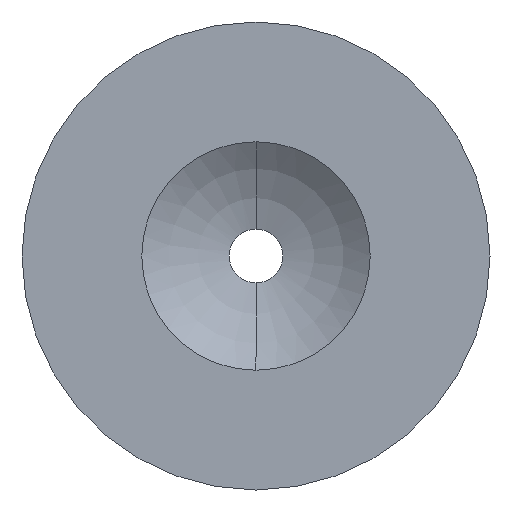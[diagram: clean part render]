
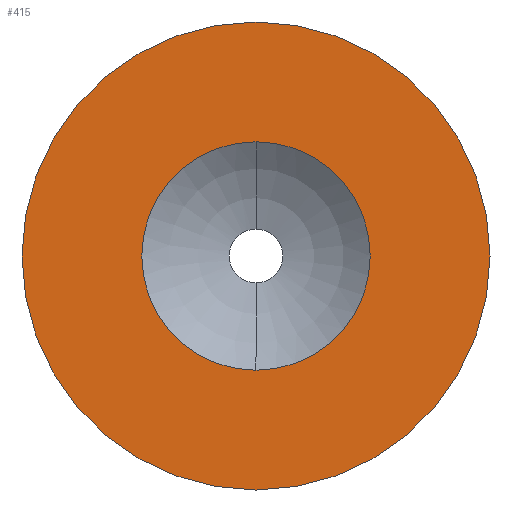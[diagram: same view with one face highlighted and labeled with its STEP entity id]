
A CAD part, left-side view. The second image highlights one B-rep face of the part: STEP entity #415.
In plain terms, the highlighted planar face has unit normal (-1, 0, 0).
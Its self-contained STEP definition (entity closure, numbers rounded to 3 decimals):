
#17 = DIRECTION ( 'NONE',  ( -1., 0., 0. ) ) ;
#29 = ORIENTED_EDGE ( 'NONE', *, *, #91, .F. ) ;
#34 = AXIS2_PLACEMENT_3D ( 'NONE', #132, #194, #303 ) ;
#39 = PLANE ( 'NONE',  #34 ) ;
#41 = FACE_BOUND ( 'NONE', #429, .T. ) ;
#59 = DIRECTION ( 'NONE',  ( 0., 0., 1. ) ) ;
#64 = DIRECTION ( 'NONE',  ( -1., 0., 0. ) ) ;
#73 = DIRECTION ( 'NONE',  ( -1., 0., 0. ) ) ;
#88 = AXIS2_PLACEMENT_3D ( 'NONE', #260, #17, #227 ) ;
#91 = EDGE_CURVE ( 'NONE', #238, #406, #200, .T. ) ;
#95 = DIRECTION ( 'NONE',  ( 0., 0., 1. ) ) ;
#130 = DIRECTION ( 'NONE',  ( -1., 0., 0. ) ) ;
#132 = CARTESIAN_POINT ( 'NONE',  ( 0., 8.545, 0. ) ) ;
#165 = EDGE_CURVE ( 'NONE', #406, #238, #357, .T. ) ;
#194 = DIRECTION ( 'NONE',  ( 1., 0., 0. ) ) ;
#198 = CARTESIAN_POINT ( 'NONE',  ( 0., 0., -17.5 ) ) ;
#200 = CIRCLE ( 'NONE', #427, 8.545 ) ;
#222 = EDGE_LOOP ( 'NONE', ( #401, #355 ) ) ;
#227 = DIRECTION ( 'NONE',  ( 0., 0., 1. ) ) ;
#238 = VERTEX_POINT ( 'NONE', #306 ) ;
#260 = CARTESIAN_POINT ( 'NONE',  ( 0., 0., 0. ) ) ;
#264 = CIRCLE ( 'NONE', #88, 17.5 ) ;
#266 = CARTESIAN_POINT ( 'NONE',  ( 0., 0., 0. ) ) ;
#268 = EDGE_CURVE ( 'NONE', #420, #389, #264, .T. ) ;
#275 = AXIS2_PLACEMENT_3D ( 'NONE', #434, #130, #95 ) ;
#277 = CARTESIAN_POINT ( 'NONE',  ( 0., 0., 0. ) ) ;
#292 = CIRCLE ( 'NONE', #275, 17.5 ) ;
#302 = DIRECTION ( 'NONE',  ( 0., 0., 1. ) ) ;
#303 = DIRECTION ( 'NONE',  ( 0., 0., -1. ) ) ;
#306 = CARTESIAN_POINT ( 'NONE',  ( 0., 0., 8.545 ) ) ;
#309 = CARTESIAN_POINT ( 'NONE',  ( 0., 0., -8.545 ) ) ;
#312 = ORIENTED_EDGE ( 'NONE', *, *, #165, .F. ) ;
#315 = FACE_OUTER_BOUND ( 'NONE', #222, .T. ) ;
#328 = EDGE_CURVE ( 'NONE', #389, #420, #292, .T. ) ;
#355 = ORIENTED_EDGE ( 'NONE', *, *, #268, .T. ) ;
#357 = CIRCLE ( 'NONE', #367, 8.545 ) ;
#367 = AXIS2_PLACEMENT_3D ( 'NONE', #266, #64, #302 ) ;
#370 = CARTESIAN_POINT ( 'NONE',  ( 0., 0., 17.5 ) ) ;
#389 = VERTEX_POINT ( 'NONE', #370 ) ;
#401 = ORIENTED_EDGE ( 'NONE', *, *, #328, .T. ) ;
#406 = VERTEX_POINT ( 'NONE', #309 ) ;
#415 = ADVANCED_FACE ( 'NONE', ( #41, #315 ), #39, .F. ) ;
#420 = VERTEX_POINT ( 'NONE', #198 ) ;
#427 = AXIS2_PLACEMENT_3D ( 'NONE', #277, #73, #59 ) ;
#429 = EDGE_LOOP ( 'NONE', ( #29, #312 ) ) ;
#434 = CARTESIAN_POINT ( 'NONE',  ( 0., 0., 0. ) ) ;
